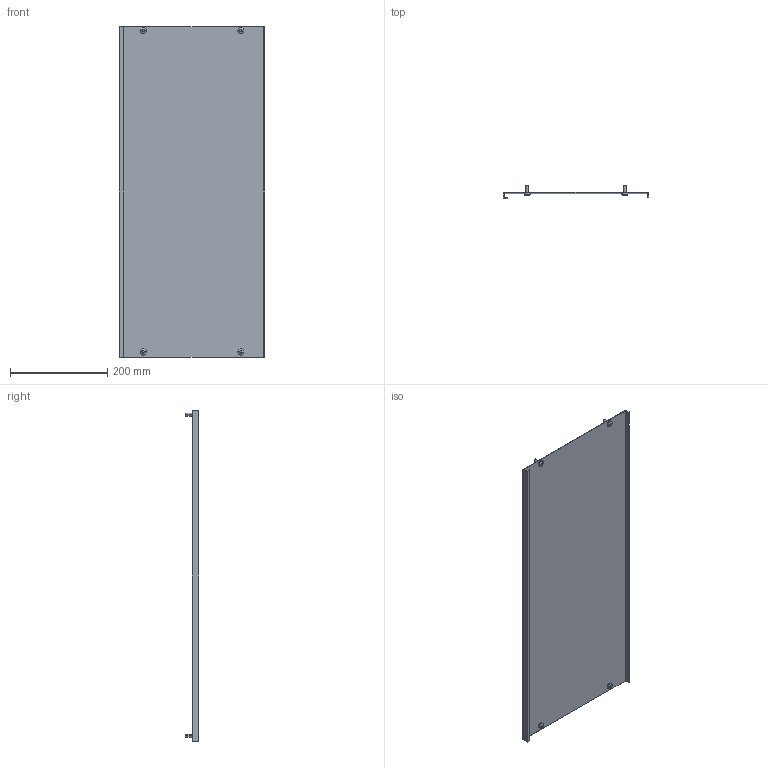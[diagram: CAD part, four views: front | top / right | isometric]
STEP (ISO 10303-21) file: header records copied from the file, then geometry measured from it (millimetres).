
FILE_DESCRIPTION (( 'STEP AP214' ), '1' );
FILE_NAME ('FO-00-PVS-030-080 Ïëàñòðîí ãëóõîé âíóòðåííèé 300õ800.STEP', '2025-09-30T07:44:54', ( '' ), ( '' ), 'SwSTEP 2.0', 'SolidWorks 2023', '' );
FILE_SCHEMA (( 'AUTOMOTIVE_DESIGN' ));
Length unit declared in the file: millimetre
Products named in the file (3): FO-00-PVS-030-080 Пластрон глухой внутренний 300х800; Винт M6x16 030-080 IEK
Assembly tree (3 placements, depth 2):
  FO-00-PVS-030-080 Пластрон глухой внутренний 300х800
    FO-00-PVS-030-080 Пластрон глухой внутренний 300х800
    Винт M6x16 030-080 IEK  x2
Bounding box: 298 x 27 x 679 mm (x, y, z)
Volume: 332838.5 mm3; surface area: 445383.5 mm2
Topology: 5 solids, 5 shells, 150 faces, 392 edges, 256 vertices
Faces by surface type: cylinder 88, plane 42, cone 12, bspline 8
Entity records: 3233 total; most frequent: CARTESIAN_POINT 724, ORIENTED_EDGE 512, DIRECTION 500, EDGE_CURVE 256, AXIS2_PLACEMENT_3D 180, VERTEX_POINT 168, LINE 140, VECTOR 140
